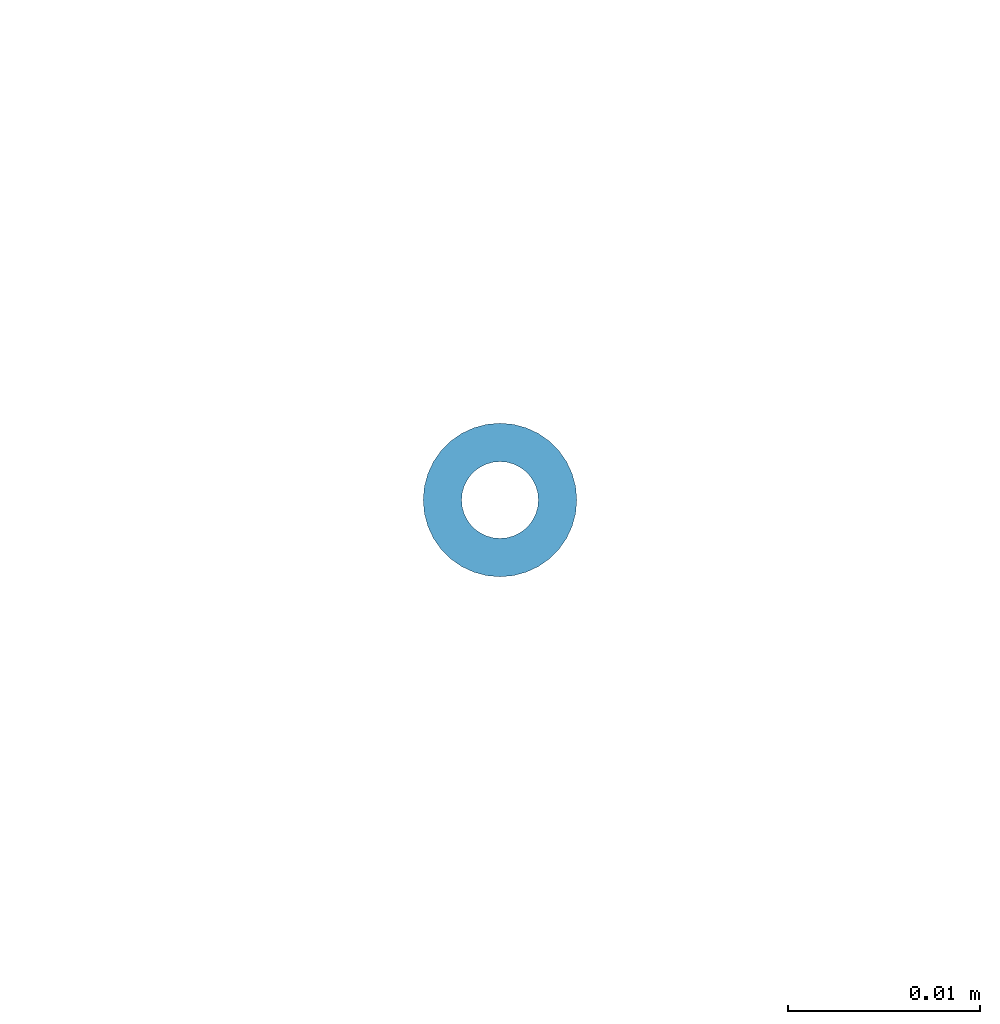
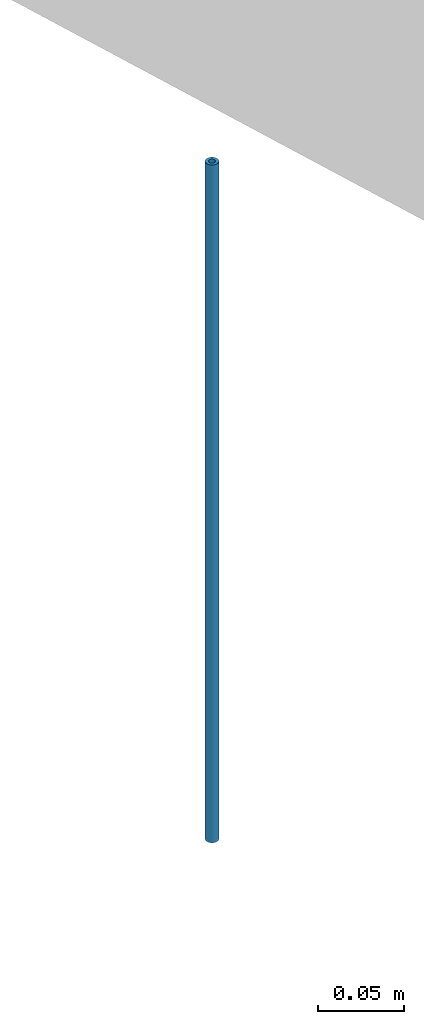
# One storey, part 21 of 23: 1 column.
"""IFC2X3 building model written with IfcOpenShell, lengths in millimetres."""

from ifc_helpers import new_model, entity, si_unit, converted_unit, derived_unit, direction, frame, origin_with_axes, place, context, subcontext, project, spatial, faceted_brep, material, type_object, element, save


model = new_model("IFC2X3")

# Units and contexts
model_context = context("Model", 3, precision=0.01, world=frame((0.0, 4.29681676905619e-09, 0.0)), true_north=direction((4.01073788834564e-13, 1.0)))
plan_context = context("Plan", 3, precision=0.01, world=frame((0.0, 4.29681676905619e-09, 0.0)), true_north=direction((4.01073788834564e-13, 1.0)))
body_context = subcontext(model_context, "Body", "Model", "MODEL_VIEW")
ifc_project = project(units=[converted_unit("PLANEANGLEUNIT", "DEGREE", entity("IfcPositiveLengthMeasure", 0.0174532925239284), si_unit("PLANEANGLEUNIT", "RADIAN"), dimensions=[0, 0, 0, 0, 0, 0, 0]), si_unit("AREAUNIT", "SQUARE_METRE"), si_unit("LENGTHUNIT", "METRE", prefix="MILLI"), si_unit("MASSUNIT", "GRAM", prefix="KILO"), si_unit("POWERUNIT", "WATT"), si_unit("PRESSUREUNIT", "PASCAL", prefix="KILO"), si_unit("FORCEUNIT", "NEWTON", prefix="KILO"), si_unit("ELECTRICVOLTAGEUNIT", "VOLT"), si_unit("ELECTRICCURRENTUNIT", "AMPERE"), si_unit("THERMODYNAMICTEMPERATUREUNIT", "DEGREE_CELSIUS"), si_unit("TIMEUNIT", "SECOND"), si_unit("VOLUMEUNIT", "CUBIC_METRE"), derived_unit("LINEARVELOCITYUNIT", [(si_unit("LENGTHUNIT", "METRE"), 1), (si_unit("TIMEUNIT", "SECOND"), -1)]), derived_unit("VOLUMETRICFLOWRATEUNIT", [(si_unit("VOLUMEUNIT", "CUBIC_METRE"), 1), (si_unit("TIMEUNIT", "SECOND"), -1)]), derived_unit("THERMALTRANSMITTANCEUNIT", [(si_unit("POWERUNIT", "WATT"), 1), (si_unit("THERMODYNAMICTEMPERATUREUNIT", "KELVIN"), -1), (si_unit("AREAUNIT", "SQUARE_METRE"), -1)]), derived_unit("SOUNDPRESSUREUNIT", [(si_unit("PRESSUREUNIT", "PASCAL"), 1)])], contexts=[model_context, plan_context])

# Site, building, storey
site_placement = place(None, origin_with_axes())
site = spatial("IfcSite", under=ifc_project, at=site_placement, Name="ENGM", CompositionType="ELEMENT")
building_placement = place(site_placement, origin_with_axes())
building = spatial("IfcBuilding", under=site, at=building_placement, Name="TI", CompositionType="ELEMENT")
storey_placement = place(building_placement, frame((0.0, 0.0, 213700.0), z_axis=(0.0, 0.0, 1.0), x_axis=(1.0, 0.0, 0.0)))
storey = spatial("IfcBuildingStorey", under=building, at=storey_placement, Name="Nivå G - 2,0m", CompositionType="ELEMENT", Elevation=213700.0)

# Column
ifc_material = material(Name="_NSW Stål")
column_type = type_object("IfcColumnType", Name="A241 - GRID-oppheng:A241 - GRID-oppheng - ø10 mm", PredefinedType="COLUMN", material=ifc_material)
column_placement = place(storey_placement, frame((599000.000000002, 575300.0, -213700.0), z_axis=(0.0, 0.0, 1.0), x_axis=(1.0, 0.0, 0.0)))
element("IfcColumn", 1, at=column_placement, inside=storey, type_object=column_type, Name="A241 - GRID-oppheng:A241 - GRID-oppheng - ø10 mm", ObjectType="A241 - GRID-oppheng:A241 - GRID-oppheng - ø10 mm", context=body_context, shape_type="Brep", body=[
    faceted_brep([(2.00000000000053, 2.95521980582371e-15, 214400.0), (1.96961550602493, -0.347296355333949, 214400.0), (1.96961550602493, -0.347296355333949, 213920.0), (2.00000000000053, 2.95521980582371e-15, 213920.0), (1.87938524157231, -0.684040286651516, 214400.0), (1.87938524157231, -0.684040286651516, 213920.0), (1.73205080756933, -1.00000000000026, 214400.0), (1.73205080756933, -1.00000000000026, 213920.0), (1.53208888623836, -1.28557521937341, 214400.0), (1.53208888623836, -1.28557521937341, 213920.0), (1.28557521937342, -1.53208888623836, 214400.0), (1.28557521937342, -1.53208888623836, 213920.0), (1.00000000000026, -1.73205080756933, 214400.0), (1.00000000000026, -1.73205080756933, 213920.0), (0.684040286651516, -1.87938524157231, 214400.0), (0.684040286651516, -1.87938524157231, 213920.0), (0.347296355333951, -1.96961550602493, 214400.0), (0.347296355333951, -1.96961550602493, 213920.0), (-2.38954857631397e-16, -2.00000000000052, 214400.0), (-2.38954857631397e-16, -2.00000000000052, 213920.0), (-0.347296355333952, -1.96961550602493, 214400.0), (-0.347296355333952, -1.96961550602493, 213920.0), (-0.684040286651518, -1.87938524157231, 214400.0), (-0.684040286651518, -1.87938524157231, 213920.0), (-1.00000000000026, -1.73205080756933, 214400.0), (-1.00000000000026, -1.73205080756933, 213920.0), (-1.28557521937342, -1.53208888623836, 214400.0), (-1.28557521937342, -1.53208888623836, 213920.0), (-1.53208888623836, -1.28557521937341, 214400.0), (-1.53208888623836, -1.28557521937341, 213920.0), (-1.73205080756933, -1.00000000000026, 214400.0), (-1.73205080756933, -1.00000000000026, 213920.0), (-1.87938524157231, -0.684040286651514, 214400.0), (-1.87938524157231, -0.684040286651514, 213920.0), (-1.96961550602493, -0.347296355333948, 214400.0), (-1.96961550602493, -0.347296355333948, 213920.0), (-2.00000000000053, 3.20014916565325e-15, 214400.0), (-2.00000000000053, 3.20014916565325e-15, 213920.0), (-1.96961550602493, 0.347296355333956, 214400.0), (-1.96961550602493, 0.347296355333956, 213920.0), (-1.87938524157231, 0.68404028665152, 214400.0), (-1.87938524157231, 0.68404028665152, 213920.0), (-1.73205080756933, 1.00000000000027, 214400.0), (-1.73205080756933, 1.00000000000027, 213920.0), (-1.53208888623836, 1.28557521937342, 214400.0), (-1.53208888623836, 1.28557521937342, 213920.0), (-1.28557521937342, 1.53208888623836, 214400.0), (-1.28557521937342, 1.53208888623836, 213920.0), (-1.00000000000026, 1.73205080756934, 214400.0), (-1.00000000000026, 1.73205080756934, 213920.0), (-0.684040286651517, 1.87938524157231, 214400.0), (-0.684040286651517, 1.87938524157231, 213920.0), (-0.347296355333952, 1.96961550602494, 214400.0), (-0.347296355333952, 1.96961550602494, 213920.0), (2.50903862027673e-16, 2.00000000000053, 214400.0), (2.50903862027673e-16, 2.00000000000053, 213920.0), (0.347296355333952, 1.96961550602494, 214400.0), (0.347296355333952, 1.96961550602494, 213920.0), (0.684040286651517, 1.87938524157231, 214400.0), (0.684040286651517, 1.87938524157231, 213920.0), (1.00000000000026, 1.73205080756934, 214400.0), (1.00000000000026, 1.73205080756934, 213920.0), (1.28557521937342, 1.53208888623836, 214400.0), (1.28557521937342, 1.53208888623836, 213920.0), (1.53208888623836, 1.28557521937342, 214400.0), (1.53208888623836, 1.28557521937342, 213920.0), (1.73205080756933, 1.00000000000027, 214400.0), (1.73205080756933, 1.00000000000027, 213920.0), (1.87938524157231, 0.68404028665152, 214400.0), (1.87938524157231, 0.68404028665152, 213920.0), (1.96961550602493, 0.347296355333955, 214400.0), (1.96961550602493, 0.347296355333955, 213920.0), (3.93923101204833, -0.694592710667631, 214400.0), (3.99999999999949, 2.95521980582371e-15, 214400.0), (3.99999999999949, 2.95521980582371e-15, 213920.0), (3.93923101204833, -0.694592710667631, 213920.0), (3.93923101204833, 0.694592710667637, 214400.0), (3.93923101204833, 0.694592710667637, 213920.0), (3.75877048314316, 1.3680805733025, 214400.0), (3.75877048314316, 1.3680805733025, 213920.0), (3.46410161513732, 1.99999999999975, 214400.0), (3.46410161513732, 1.99999999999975, 213920.0), (3.06417777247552, 2.57115043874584, 214400.0), (3.06417777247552, 2.57115043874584, 213920.0), (2.57115043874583, 3.06417777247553, 214400.0), (2.57115043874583, 3.06417777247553, 213920.0), (1.99999999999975, 3.46410161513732, 214400.0), (1.99999999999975, 3.46410161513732, 213920.0), (1.3680805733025, 3.75877048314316, 214400.0), (1.3680805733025, 3.75877048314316, 213920.0), (0.694592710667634, 3.93923101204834, 214400.0), (0.694592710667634, 3.93923101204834, 213920.0), (3.73368541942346e-16, 3.9999999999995, 214400.0), (3.73368541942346e-16, 3.9999999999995, 213920.0), (-0.694592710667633, 3.93923101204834, 214400.0), (-0.694592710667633, 3.93923101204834, 213920.0), (-1.3680805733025, 3.75877048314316, 214400.0), (-1.3680805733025, 3.75877048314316, 213920.0), (-1.99999999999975, 3.46410161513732, 214400.0), (-1.99999999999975, 3.46410161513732, 213920.0), (-2.57115043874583, 3.06417777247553, 214400.0), (-2.57115043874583, 3.06417777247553, 213920.0), (-3.06417777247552, 2.57115043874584, 214400.0), (-3.06417777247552, 2.57115043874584, 213920.0), (-3.46410161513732, 1.99999999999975, 214400.0), (-3.46410161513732, 1.99999999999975, 213920.0), (-3.75877048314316, 1.36808057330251, 214400.0), (-3.75877048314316, 1.36808057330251, 213920.0), (-3.93923101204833, 0.694592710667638, 214400.0), (-3.93923101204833, 0.694592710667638, 213920.0), (-3.99999999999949, 3.44507852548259e-15, 214400.0), (-3.99999999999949, 3.44507852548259e-15, 213920.0), (-3.93923101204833, -0.694592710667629, 214400.0), (-3.93923101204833, -0.694592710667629, 213920.0), (-3.75877048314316, -1.3680805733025, 214400.0), (-3.75877048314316, -1.3680805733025, 213920.0), (-3.46410161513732, -1.99999999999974, 214400.0), (-3.46410161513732, -1.99999999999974, 213920.0), (-3.06417777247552, -2.57115043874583, 214400.0), (-3.06417777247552, -2.57115043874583, 213920.0), (-2.57115043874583, -3.06417777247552, 214400.0), (-2.57115043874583, -3.06417777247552, 213920.0), (-1.99999999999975, -3.46410161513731, 214400.0), (-1.99999999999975, -3.46410161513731, 213920.0), (-1.3680805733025, -3.75877048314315, 214400.0), (-1.3680805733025, -3.75877048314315, 213920.0), (-0.694592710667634, -3.93923101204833, 214400.0), (-0.694592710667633, -3.93923101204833, 213920.0), (-6.06348897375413e-16, -3.99999999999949, 214400.0), (-6.06348897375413e-16, -3.99999999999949, 213920.0), (0.694592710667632, -3.93923101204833, 214400.0), (0.694592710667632, -3.93923101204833, 213920.0), (1.3680805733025, -3.75877048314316, 214400.0), (1.3680805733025, -3.75877048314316, 213920.0), (1.99999999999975, -3.46410161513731, 214400.0), (1.99999999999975, -3.46410161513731, 213920.0), (2.57115043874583, -3.06417777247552, 214400.0), (2.57115043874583, -3.06417777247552, 213920.0), (3.06417777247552, -2.57115043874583, 214400.0), (3.06417777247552, -2.57115043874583, 213920.0), (3.46410161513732, -1.99999999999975, 214400.0), (3.46410161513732, -1.99999999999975, 213920.0), (3.75877048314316, -1.3680805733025, 214400.0), (3.75877048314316, -1.3680805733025, 213920.0)], [[[0, 1, 2, 3]], [[1, 4, 5, 2]], [[4, 6, 7, 5]], [[6, 8, 9, 7]], [[8, 10, 11, 9]], [[10, 12, 13, 11]], [[12, 14, 15, 13]], [[14, 16, 17, 15]], [[16, 18, 19, 17]], [[18, 20, 21, 19]], [[20, 22, 23, 21]], [[22, 24, 25, 23]], [[24, 26, 27, 25]], [[26, 28, 29, 27]], [[28, 30, 31, 29]], [[30, 32, 33, 31]], [[32, 34, 35, 33]], [[34, 36, 37, 35]], [[36, 38, 39, 37]], [[38, 40, 41, 39]], [[40, 42, 43, 41]], [[42, 44, 45, 43]], [[44, 46, 47, 45]], [[46, 48, 49, 47]], [[48, 50, 51, 49]], [[50, 52, 53, 51]], [[52, 54, 55, 53]], [[54, 56, 57, 55]], [[56, 58, 59, 57]], [[58, 60, 61, 59]], [[60, 62, 63, 61]], [[62, 64, 65, 63]], [[64, 66, 67, 65]], [[66, 68, 69, 67]], [[68, 70, 71, 69]], [[70, 0, 3, 71]], [[72, 73, 74, 75]], [[73, 76, 77, 74]], [[76, 78, 79, 77]], [[78, 80, 81, 79]], [[80, 82, 83, 81]], [[82, 84, 85, 83]], [[84, 86, 87, 85]], [[86, 88, 89, 87]], [[88, 90, 91, 89]], [[90, 92, 93, 91]], [[92, 94, 95, 93]], [[94, 96, 97, 95]], [[96, 98, 99, 97]], [[98, 100, 101, 99]], [[100, 102, 103, 101]], [[102, 104, 105, 103]], [[104, 106, 107, 105]], [[106, 108, 109, 107]], [[108, 110, 111, 109]], [[110, 112, 113, 111]], [[112, 114, 115, 113]], [[114, 116, 117, 115]], [[116, 118, 119, 117]], [[118, 120, 121, 119]], [[120, 122, 123, 121]], [[122, 124, 125, 123]], [[124, 126, 127, 125]], [[126, 128, 129, 127]], [[128, 130, 131, 129]], [[130, 132, 133, 131]], [[132, 134, 135, 133]], [[134, 136, 137, 135]], [[136, 138, 139, 137]], [[138, 140, 141, 139]], [[140, 142, 143, 141]], [[142, 72, 75, 143]], [[75, 74, 77, 79, 81, 83, 85, 87, 89, 91, 93, 95, 97, 99, 101, 103, 105, 107, 109, 111, 113, 115, 117, 119, 121, 123, 125, 127, 129, 131, 133, 135, 137, 139, 141, 143], [3, 2, 5, 7, 9, 11, 13, 15, 17, 19, 21, 23, 25, 27, 29, 31, 33, 35, 37, 39, 41, 43, 45, 47, 49, 51, 53, 55, 57, 59, 61, 63, 65, 67, 69, 71]], [[142, 140, 138, 136, 134, 132, 130, 128, 126, 124, 122, 120, 118, 116, 114, 112, 110, 108, 106, 104, 102, 100, 98, 96, 94, 92, 90, 88, 86, 84, 82, 80, 78, 76, 73, 72], [70, 68, 66, 64, 62, 60, 58, 56, 54, 52, 50, 48, 46, 44, 42, 40, 38, 36, 34, 32, 30, 28, 26, 24, 22, 20, 18, 16, 14, 12, 10, 8, 6, 4, 1, 0]]], orient=[[False], [False], [False], [False], [False], [False], [False], [False], [False], [False], [False], [False], [False], [False], [False], [False], [False], [False], [False], [False], [False], [False], [False], [False], [False], [False], [False], [False], [False], [False], [False], [False], [False], [False], [False], [False], [False], [False], [False], [False], [False], [False], [False], [False], [False], [False], [False], [False], [False], [False], [False], [False], [False], [False], [False], [False], [False], [False], [False], [False], [False], [False], [False], [False], [False], [False], [False], [False], [False], [False], [False], [False], [False, False], [False, False]]),
])

save(model, "model.ifc")
